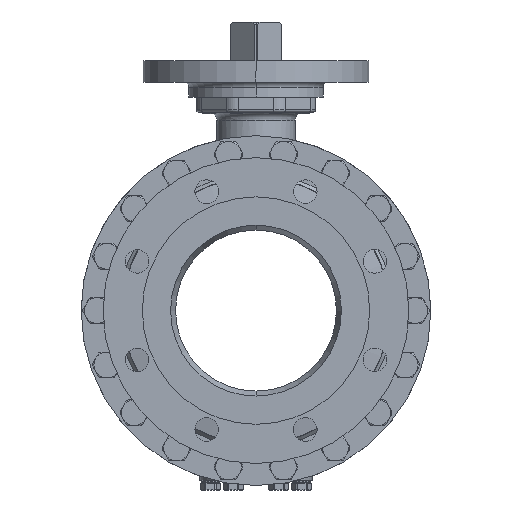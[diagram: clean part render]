
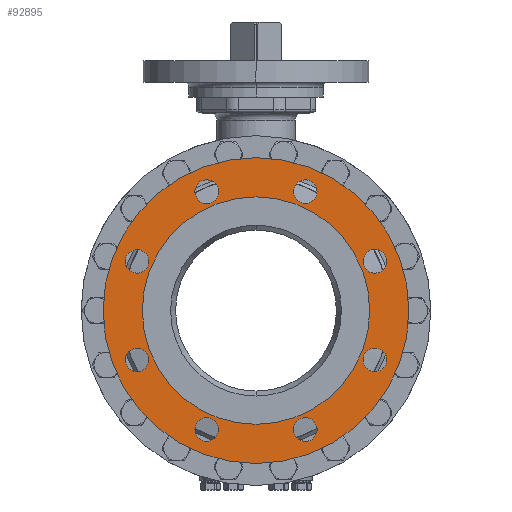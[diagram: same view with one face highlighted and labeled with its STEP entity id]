
A CAD part, left-side view. The second image highlights one B-rep face of the part: STEP entity #92895.
In plain terms, the highlighted planar face has unit normal (-1, 0, 0).
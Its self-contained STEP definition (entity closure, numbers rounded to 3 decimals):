
#13691=CARTESIAN_POINT('',(-194.,0.,0.));
#13692=DIRECTION('',(1.,0.,0.));
#13693=DIRECTION('',(0.,0.,1.));
#13694=AXIS2_PLACEMENT_3D('',#13691,#13692,#13693);
#13700=CARTESIAN_POINT('',(-194.,0.,0.));
#13701=DIRECTION('',(-1.,0.,0.));
#13702=DIRECTION('',(0.,0.,1.));
#13703=AXIS2_PLACEMENT_3D('',#13700,#13701,#13702);
#13709=CARTESIAN_POINT('',(-194.,0.,0.));
#13710=DIRECTION('',(-1.,0.,0.));
#13711=DIRECTION('',(0.,0.,1.));
#13712=AXIS2_PLACEMENT_3D('',#13709,#13710,#13711);
#13714=CARTESIAN_POINT('',(-194.,0.,0.));
#13715=DIRECTION('',(-1.,0.,0.));
#13716=DIRECTION('',(0.,0.,-1.));
#13717=AXIS2_PLACEMENT_3D('',#13714,#13715,#13716);
#13719=CARTESIAN_POINT('',(-194.,-45.922,110.866));
#13720=DIRECTION('',(-1.,0.,0.));
#13721=DIRECTION('',(0.,-1.,0.));
#13722=AXIS2_PLACEMENT_3D('',#13719,#13720,#13721);
#13724=CARTESIAN_POINT('',(-194.,-45.922,110.866));
#13725=DIRECTION('',(-1.,0.,0.));
#13726=DIRECTION('',(0.,1.,0.));
#13727=AXIS2_PLACEMENT_3D('',#13724,#13725,#13726);
#13729=CARTESIAN_POINT('',(-194.,45.922,110.866));
#13730=DIRECTION('',(-1.,0.,0.));
#13731=DIRECTION('',(0.,-0.707,0.707));
#13732=AXIS2_PLACEMENT_3D('',#13729,#13730,#13731);
#13734=CARTESIAN_POINT('',(-194.,45.922,110.866));
#13735=DIRECTION('',(-1.,0.,0.));
#13736=DIRECTION('',(0.,0.707,-0.707));
#13737=AXIS2_PLACEMENT_3D('',#13734,#13735,#13736);
#13739=CARTESIAN_POINT('',(-194.,110.866,45.922));
#13740=DIRECTION('',(-1.,0.,0.));
#13741=DIRECTION('',(0.,0.,1.));
#13742=AXIS2_PLACEMENT_3D('',#13739,#13740,#13741);
#13744=CARTESIAN_POINT('',(-194.,110.866,45.922));
#13745=DIRECTION('',(-1.,0.,0.));
#13746=DIRECTION('',(0.,0.,-1.));
#13747=AXIS2_PLACEMENT_3D('',#13744,#13745,#13746);
#13749=CARTESIAN_POINT('',(-194.,110.866,-45.922));
#13750=DIRECTION('',(-1.,0.,0.));
#13751=DIRECTION('',(0.,0.707,0.707));
#13752=AXIS2_PLACEMENT_3D('',#13749,#13750,#13751);
#13754=CARTESIAN_POINT('',(-194.,110.866,-45.922));
#13755=DIRECTION('',(-1.,0.,0.));
#13756=DIRECTION('',(0.,-0.707,-0.707));
#13757=AXIS2_PLACEMENT_3D('',#13754,#13755,#13756);
#13759=CARTESIAN_POINT('',(-194.,45.922,-110.866));
#13760=DIRECTION('',(-1.,0.,0.));
#13761=DIRECTION('',(0.,1.,0.));
#13762=AXIS2_PLACEMENT_3D('',#13759,#13760,#13761);
#13764=CARTESIAN_POINT('',(-194.,45.922,-110.866));
#13765=DIRECTION('',(-1.,0.,0.));
#13766=DIRECTION('',(0.,-1.,0.));
#13767=AXIS2_PLACEMENT_3D('',#13764,#13765,#13766);
#13769=CARTESIAN_POINT('',(-194.,-45.922,-110.866));
#13770=DIRECTION('',(-1.,0.,0.));
#13771=DIRECTION('',(0.,0.707,-0.707));
#13772=AXIS2_PLACEMENT_3D('',#13769,#13770,#13771);
#13774=CARTESIAN_POINT('',(-194.,-45.922,-110.866));
#13775=DIRECTION('',(-1.,0.,0.));
#13776=DIRECTION('',(0.,-0.707,0.707));
#13777=AXIS2_PLACEMENT_3D('',#13774,#13775,#13776);
#13779=CARTESIAN_POINT('',(-194.,-110.866,-45.922));
#13780=DIRECTION('',(-1.,0.,0.));
#13781=DIRECTION('',(0.,0.,-1.));
#13782=AXIS2_PLACEMENT_3D('',#13779,#13780,#13781);
#13784=CARTESIAN_POINT('',(-194.,-110.866,-45.922));
#13785=DIRECTION('',(-1.,0.,0.));
#13786=DIRECTION('',(0.,0.,1.));
#13787=AXIS2_PLACEMENT_3D('',#13784,#13785,#13786);
#13789=CARTESIAN_POINT('',(-194.,-110.866,45.922));
#13790=DIRECTION('',(-1.,0.,0.));
#13791=DIRECTION('',(0.,-0.707,-0.707));
#13792=AXIS2_PLACEMENT_3D('',#13789,#13790,#13791);
#13794=CARTESIAN_POINT('',(-194.,-110.866,45.922));
#13795=DIRECTION('',(-1.,0.,0.));
#13796=DIRECTION('',(0.,0.707,0.707));
#13797=AXIS2_PLACEMENT_3D('',#13794,#13795,#13796);
#57815=CARTESIAN_POINT('',(-194.,0.,106.));
#57816=CARTESIAN_POINT('',(-194.,0.,-106.));
#57817=VERTEX_POINT('',#57815);
#57818=VERTEX_POINT('',#57816);
#57819=CARTESIAN_POINT('',(-194.,0.,142.5));
#57820=CARTESIAN_POINT('',(-194.,0.,-142.5));
#57821=VERTEX_POINT('',#57819);
#57822=VERTEX_POINT('',#57820);
#57831=CARTESIAN_POINT('',(-194.,-56.922,110.866));
#57832=CARTESIAN_POINT('',(-194.,-34.922,110.866));
#57833=VERTEX_POINT('',#57831);
#57834=VERTEX_POINT('',#57832);
#57839=CARTESIAN_POINT('',(-194.,38.144,118.644));
#57840=CARTESIAN_POINT('',(-194.,53.7,103.087));
#57841=VERTEX_POINT('',#57839);
#57842=VERTEX_POINT('',#57840);
#57847=CARTESIAN_POINT('',(-194.,110.866,56.922));
#57848=CARTESIAN_POINT('',(-194.,110.866,34.922));
#57849=VERTEX_POINT('',#57847);
#57850=VERTEX_POINT('',#57848);
#57855=CARTESIAN_POINT('',(-194.,118.644,-38.144));
#57856=CARTESIAN_POINT('',(-194.,103.087,-53.7));
#57857=VERTEX_POINT('',#57855);
#57858=VERTEX_POINT('',#57856);
#57863=CARTESIAN_POINT('',(-194.,56.922,-110.866));
#57864=CARTESIAN_POINT('',(-194.,34.922,-110.866));
#57865=VERTEX_POINT('',#57863);
#57866=VERTEX_POINT('',#57864);
#57871=CARTESIAN_POINT('',(-194.,-38.144,-118.644));
#57872=CARTESIAN_POINT('',(-194.,-53.7,-103.087));
#57873=VERTEX_POINT('',#57871);
#57874=VERTEX_POINT('',#57872);
#57879=CARTESIAN_POINT('',(-194.,-110.866,-56.922));
#57880=CARTESIAN_POINT('',(-194.,-110.866,-34.922));
#57881=VERTEX_POINT('',#57879);
#57882=VERTEX_POINT('',#57880);
#57887=CARTESIAN_POINT('',(-194.,-118.644,38.144));
#57888=CARTESIAN_POINT('',(-194.,-103.087,53.7));
#57889=VERTEX_POINT('',#57887);
#57890=VERTEX_POINT('',#57888);
#92832=CARTESIAN_POINT('',(-194.,0.,0.));
#92833=DIRECTION('',(1.,0.,0.));
#92834=DIRECTION('',(0.,0.,1.));
#92835=AXIS2_PLACEMENT_3D('',#92832,#92833,#92834);
#92836=PLANE('',#92835);
#92838=ORIENTED_EDGE('',*,*,#92837,.F.);
#92840=ORIENTED_EDGE('',*,*,#92839,.F.);
#92841=EDGE_LOOP('',(#92838,#92840));
#92842=FACE_OUTER_BOUND('',#92841,.F.);
#92843=ORIENTED_EDGE('',*,*,#92826,.T.);
#92844=ORIENTED_EDGE('',*,*,#92812,.F.);
#92845=EDGE_LOOP('',(#92843,#92844));
#92846=FACE_BOUND('',#92845,.F.);
#92848=ORIENTED_EDGE('',*,*,#92847,.T.);
#92850=ORIENTED_EDGE('',*,*,#92849,.T.);
#92851=EDGE_LOOP('',(#92848,#92850));
#92852=FACE_BOUND('',#92851,.F.);
#92854=ORIENTED_EDGE('',*,*,#92853,.T.);
#92856=ORIENTED_EDGE('',*,*,#92855,.T.);
#92857=EDGE_LOOP('',(#92854,#92856));
#92858=FACE_BOUND('',#92857,.F.);
#92860=ORIENTED_EDGE('',*,*,#92859,.T.);
#92862=ORIENTED_EDGE('',*,*,#92861,.T.);
#92863=EDGE_LOOP('',(#92860,#92862));
#92864=FACE_BOUND('',#92863,.F.);
#92866=ORIENTED_EDGE('',*,*,#92865,.T.);
#92868=ORIENTED_EDGE('',*,*,#92867,.T.);
#92869=EDGE_LOOP('',(#92866,#92868));
#92870=FACE_BOUND('',#92869,.F.);
#92872=ORIENTED_EDGE('',*,*,#92871,.T.);
#92874=ORIENTED_EDGE('',*,*,#92873,.T.);
#92875=EDGE_LOOP('',(#92872,#92874));
#92876=FACE_BOUND('',#92875,.F.);
#92878=ORIENTED_EDGE('',*,*,#92877,.T.);
#92880=ORIENTED_EDGE('',*,*,#92879,.T.);
#92881=EDGE_LOOP('',(#92878,#92880));
#92882=FACE_BOUND('',#92881,.F.);
#92884=ORIENTED_EDGE('',*,*,#92883,.T.);
#92886=ORIENTED_EDGE('',*,*,#92885,.T.);
#92887=EDGE_LOOP('',(#92884,#92886));
#92888=FACE_BOUND('',#92887,.F.);
#92890=ORIENTED_EDGE('',*,*,#92889,.T.);
#92892=ORIENTED_EDGE('',*,*,#92891,.T.);
#92893=EDGE_LOOP('',(#92890,#92892));
#92894=FACE_BOUND('',#92893,.F.);
#92895=ADVANCED_FACE('',(#92842,#92846,#92852,#92858,#92864,#92870,#92876,
#92882,#92888,#92894),#92836,.F.);
#13695=CIRCLE('',#13694,106.);
#13704=CIRCLE('',#13703,106.);
#13713=CIRCLE('',#13712,142.5);
#13718=CIRCLE('',#13717,142.5);
#13723=CIRCLE('',#13722,11.);
#13728=CIRCLE('',#13727,11.);
#13733=CIRCLE('',#13732,11.);
#13738=CIRCLE('',#13737,11.);
#13743=CIRCLE('',#13742,11.);
#13748=CIRCLE('',#13747,11.);
#13753=CIRCLE('',#13752,11.);
#13758=CIRCLE('',#13757,11.);
#13763=CIRCLE('',#13762,11.);
#13768=CIRCLE('',#13767,11.);
#13773=CIRCLE('',#13772,11.);
#13778=CIRCLE('',#13777,11.);
#13783=CIRCLE('',#13782,11.);
#13788=CIRCLE('',#13787,11.);
#13793=CIRCLE('',#13792,11.);
#13798=CIRCLE('',#13797,11.);
#92812=EDGE_CURVE('',#57817,#57818,#13695,.T.);
#92826=EDGE_CURVE('',#57817,#57818,#13704,.T.);
#92837=EDGE_CURVE('',#57821,#57822,#13713,.T.);
#92839=EDGE_CURVE('',#57822,#57821,#13718,.T.);
#92847=EDGE_CURVE('',#57833,#57834,#13723,.T.);
#92849=EDGE_CURVE('',#57834,#57833,#13728,.T.);
#92853=EDGE_CURVE('',#57841,#57842,#13733,.T.);
#92855=EDGE_CURVE('',#57842,#57841,#13738,.T.);
#92859=EDGE_CURVE('',#57849,#57850,#13743,.T.);
#92861=EDGE_CURVE('',#57850,#57849,#13748,.T.);
#92865=EDGE_CURVE('',#57857,#57858,#13753,.T.);
#92867=EDGE_CURVE('',#57858,#57857,#13758,.T.);
#92871=EDGE_CURVE('',#57865,#57866,#13763,.T.);
#92873=EDGE_CURVE('',#57866,#57865,#13768,.T.);
#92877=EDGE_CURVE('',#57873,#57874,#13773,.T.);
#92879=EDGE_CURVE('',#57874,#57873,#13778,.T.);
#92883=EDGE_CURVE('',#57881,#57882,#13783,.T.);
#92885=EDGE_CURVE('',#57882,#57881,#13788,.T.);
#92889=EDGE_CURVE('',#57889,#57890,#13793,.T.);
#92891=EDGE_CURVE('',#57890,#57889,#13798,.T.);
